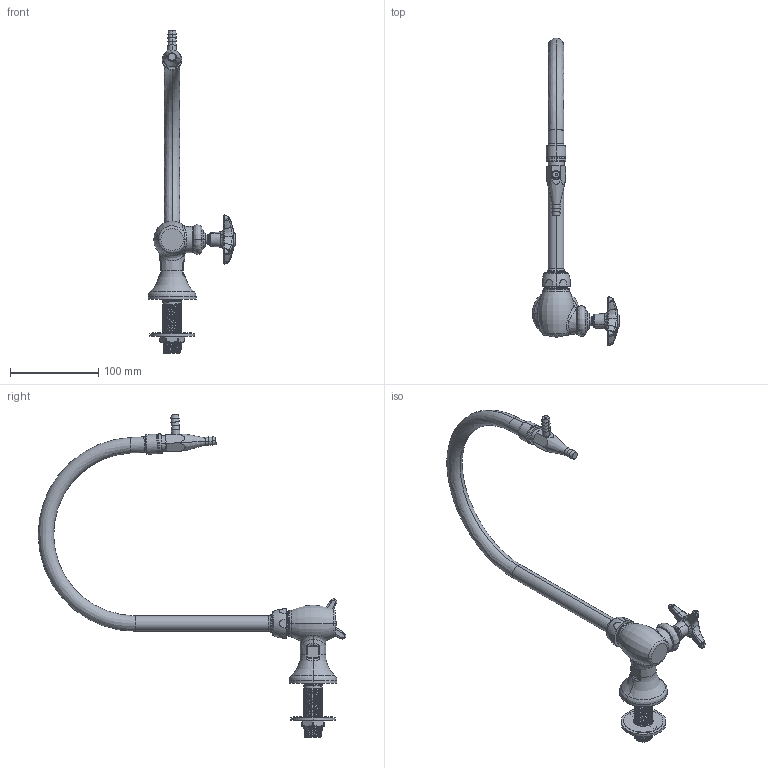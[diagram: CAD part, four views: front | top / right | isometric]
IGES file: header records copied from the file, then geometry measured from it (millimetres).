
Start section:  PTC IGES file: LWS5-C33-B.igs
Global section: file name: LWS5-C33-B.igs; native system: Creo Parametric by PTC Inc.; preprocessor: 2014500; author: usch_engrender; organization: Unknown; date: 20151209.130522; units: inch
Bounding box: 99.14 x 347.92 x 365.15 mm (x, y, z)
Volume: 220727.4 mm3; surface area: 92742.7 mm2
Topology: 1 solids, 5 shells, 509 faces, 1199 edges, 721 vertices
Faces by surface type: bspline 265, revolution 244
